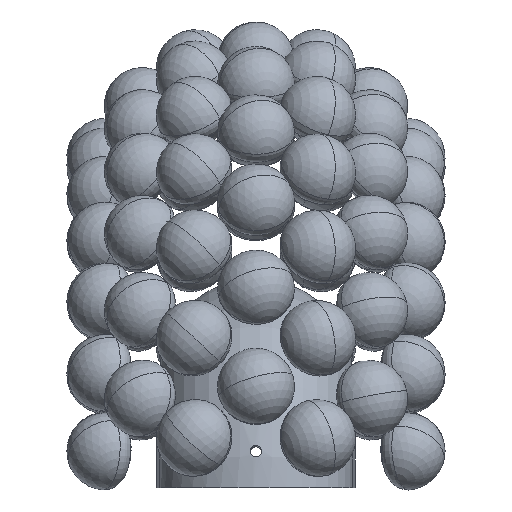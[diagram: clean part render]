
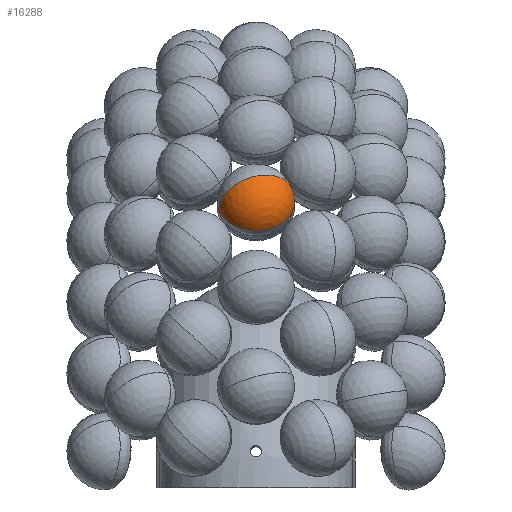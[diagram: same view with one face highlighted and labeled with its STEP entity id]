
A CAD part, left-side view. The second image highlights one B-rep face of the part: STEP entity #16288.
In plain terms, the highlighted spherical face has radius 20 mm.
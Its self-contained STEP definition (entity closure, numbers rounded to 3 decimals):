
#346 = CIRCLE ( 'NONE', #1426, 20. ) ;
#444 = DIRECTION ( 'NONE',  ( -0.182, 0.964, -0.194 ) ) ;
#542 = DIRECTION ( 'NONE',  ( 0.73, 0., -0.684 ) ) ;
#1068 = DIRECTION ( 'NONE',  ( -0.73, 0., 0.684 ) ) ;
#1223 = CARTESIAN_POINT ( 'NONE',  ( -163.982, -19.278, 153.293 ) ) ;
#1426 = AXIS2_PLACEMENT_3D ( 'NONE', #19557, #24836, #1068 ) ;
#3148 = VERTEX_POINT ( 'NONE', #1223 ) ;
#7224 = AXIS2_PLACEMENT_3D ( 'NONE', #26099, #24025, #444 ) ;
#7986 = CIRCLE ( 'NONE', #26140, 20. ) ;
#11846 = FACE_OUTER_BOUND ( 'NONE', #12792, .T. ) ;
#12030 = SPHERICAL_SURFACE ( 'NONE', #33615, 20. ) ;
#12792 = EDGE_LOOP ( 'NONE', ( #17578, #31047, #19117 ) ) ;
#13049 = EDGE_CURVE ( 'NONE', #22130, #3148, #13889, .T. ) ;
#13889 = CIRCLE ( 'NONE', #7224, 20. ) ;
#16288 = ADVANCED_FACE ( 'NONE', ( #11846 ), #12030, .T. ) ;
#17578 = ORIENTED_EDGE ( 'NONE', *, *, #26942, .F. ) ;
#18387 = EDGE_CURVE ( 'NONE', #3148, #22343, #346, .T. ) ;
#19117 = ORIENTED_EDGE ( 'NONE', *, *, #18387, .T. ) ;
#19557 = CARTESIAN_POINT ( 'NONE',  ( -167.623, 0., 149.405 ) ) ;
#20880 = CARTESIAN_POINT ( 'NONE',  ( -171.263, 19.278, 145.517 ) ) ;
#21425 = DIRECTION ( 'NONE',  ( 0.659, 0.266, 0.704 ) ) ;
#22130 = VERTEX_POINT ( 'NONE', #20880 ) ;
#22343 = VERTEX_POINT ( 'NONE', #29944 ) ;
#22451 = CARTESIAN_POINT ( 'NONE',  ( -167.623, 0., 149.405 ) ) ;
#24025 = DIRECTION ( 'NONE',  ( -0.73, 0., 0.684 ) ) ;
#24836 = DIRECTION ( 'NONE',  ( -0.659, -0.266, -0.704 ) ) ;
#26099 = CARTESIAN_POINT ( 'NONE',  ( -167.623, 0., 149.405 ) ) ;
#26140 = AXIS2_PLACEMENT_3D ( 'NONE', #30884, #21425, #542 ) ;
#26942 = EDGE_CURVE ( 'NONE', #22130, #22343, #7986, .T. ) ;
#29668 = DIRECTION ( 'NONE',  ( 0.659, 0.266, 0.704 ) ) ;
#29944 = CARTESIAN_POINT ( 'NONE',  ( -182.222, 0., 163.075 ) ) ;
#30884 = CARTESIAN_POINT ( 'NONE',  ( -167.623, 0., 149.405 ) ) ;
#31047 = ORIENTED_EDGE ( 'NONE', *, *, #13049, .T. ) ;
#32978 = DIRECTION ( 'NONE',  ( 0.182, -0.964, 0.194 ) ) ;
#33615 = AXIS2_PLACEMENT_3D ( 'NONE', #22451, #29668, #32978 ) ;
